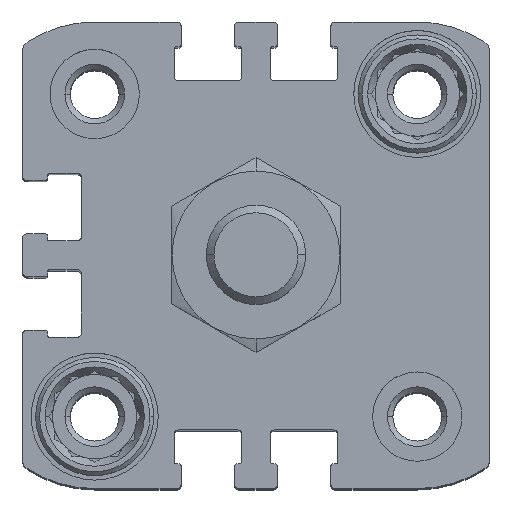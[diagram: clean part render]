
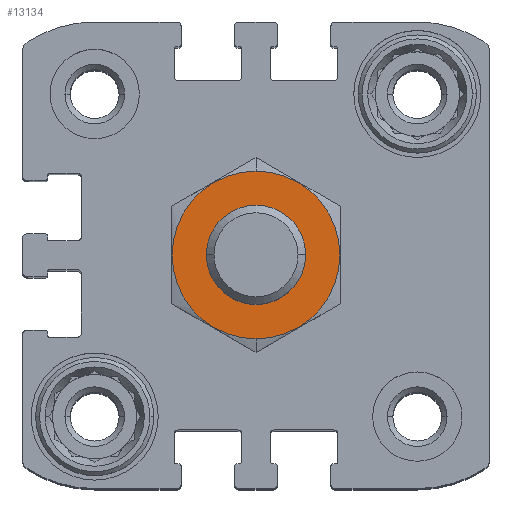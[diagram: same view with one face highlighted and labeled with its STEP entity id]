
A CAD part, top view. The second image highlights one B-rep face of the part: STEP entity #13134.
In plain terms, the highlighted planar face has unit normal (0, 0, 1).
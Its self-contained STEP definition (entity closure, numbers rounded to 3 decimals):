
#151 = DIRECTION ( 'NONE',  ( 0., 0., -1. ) ) ;
#224 = VERTEX_POINT ( 'NONE', #10099 ) ;
#314 = CARTESIAN_POINT ( 'NONE',  ( 0., 8.45, 15.75 ) ) ;
#354 = EDGE_CURVE ( 'NONE', #11414, #3796, #830, .T. ) ;
#830 = CIRCLE ( 'NONE', #15971, 5. ) ;
#1038 = CIRCLE ( 'NONE', #3827, 5. ) ;
#1659 = AXIS2_PLACEMENT_3D ( 'NONE', #15353, #16842, #3326 ) ;
#1929 = FACE_OUTER_BOUND ( 'NONE', #2877, .T. ) ;
#2169 = CIRCLE ( 'NONE', #15350, 8.45 ) ;
#2336 = ORIENTED_EDGE ( 'NONE', *, *, #12194, .F. ) ;
#2877 = EDGE_LOOP ( 'NONE', ( #10345, #2336 ) ) ;
#2955 = DIRECTION ( 'NONE',  ( 0., 1., 0. ) ) ;
#3326 = DIRECTION ( 'NONE',  ( 0., 1., 0. ) ) ;
#3630 = CARTESIAN_POINT ( 'NONE',  ( 0., 0., 15.75 ) ) ;
#3654 = VERTEX_POINT ( 'NONE', #314 ) ;
#3796 = VERTEX_POINT ( 'NONE', #13989 ) ;
#3827 = AXIS2_PLACEMENT_3D ( 'NONE', #10956, #151, #2955 ) ;
#4095 = CARTESIAN_POINT ( 'NONE',  ( 0., 0., 15.75 ) ) ;
#5377 = EDGE_LOOP ( 'NONE', ( #12140, #11191 ) ) ;
#6132 = FACE_BOUND ( 'NONE', #5377, .T. ) ;
#6215 = PLANE ( 'NONE',  #1659 ) ;
#6995 = CIRCLE ( 'NONE', #14556, 8.45 ) ;
#7765 = DIRECTION ( 'NONE',  ( 0., 0., -1. ) ) ;
#8152 = DIRECTION ( 'NONE',  ( 0., 0., -1. ) ) ;
#9040 = CARTESIAN_POINT ( 'NONE',  ( 0., 0., 15.75 ) ) ;
#9104 = EDGE_CURVE ( 'NONE', #3796, #11414, #1038, .T. ) ;
#9457 = DIRECTION ( 'NONE',  ( 0., 0., -1. ) ) ;
#10099 = CARTESIAN_POINT ( 'NONE',  ( 0., -8.45, 15.75 ) ) ;
#10345 = ORIENTED_EDGE ( 'NONE', *, *, #13365, .F. ) ;
#10527 = DIRECTION ( 'NONE',  ( 0., 1., 0. ) ) ;
#10956 = CARTESIAN_POINT ( 'NONE',  ( 0., 0., 15.75 ) ) ;
#11191 = ORIENTED_EDGE ( 'NONE', *, *, #354, .T. ) ;
#11414 = VERTEX_POINT ( 'NONE', #16856 ) ;
#12140 = ORIENTED_EDGE ( 'NONE', *, *, #9104, .T. ) ;
#12194 = EDGE_CURVE ( 'NONE', #224, #3654, #2169, .T. ) ;
#13134 = ADVANCED_FACE ( 'NONE', ( #1929, #6132 ), #6215, .F. ) ;
#13365 = EDGE_CURVE ( 'NONE', #3654, #224, #6995, .T. ) ;
#13989 = CARTESIAN_POINT ( 'NONE',  ( 0., -5., 15.75 ) ) ;
#14556 = AXIS2_PLACEMENT_3D ( 'NONE', #4095, #9457, #14821 ) ;
#14821 = DIRECTION ( 'NONE',  ( 0., 1., 0. ) ) ;
#15350 = AXIS2_PLACEMENT_3D ( 'NONE', #3630, #7765, #15656 ) ;
#15353 = CARTESIAN_POINT ( 'NONE',  ( 0., 0., 15.75 ) ) ;
#15656 = DIRECTION ( 'NONE',  ( 0., 1., 0. ) ) ;
#15971 = AXIS2_PLACEMENT_3D ( 'NONE', #9040, #8152, #10527 ) ;
#16842 = DIRECTION ( 'NONE',  ( 0., 0., -1. ) ) ;
#16856 = CARTESIAN_POINT ( 'NONE',  ( 0., 5., 15.75 ) ) ;
